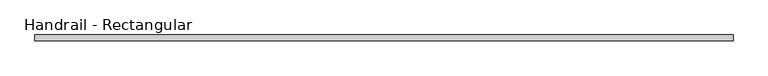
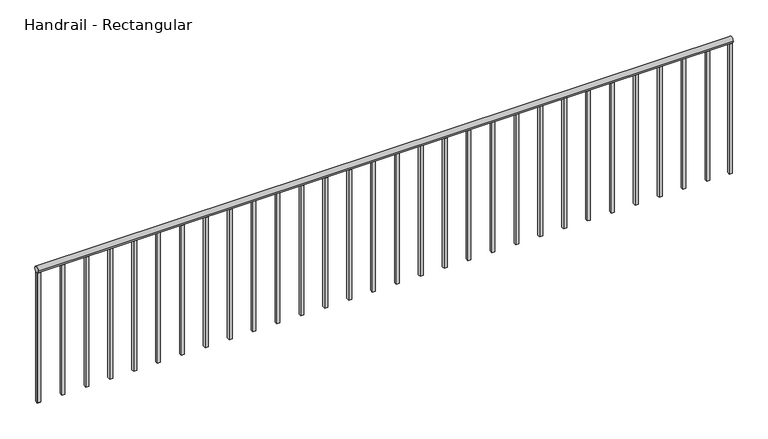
"""IFC4 building model written with IfcOpenShell, lengths in millimetres: railing geometry, Handrail - Rectangular."""

from ifc_helpers import new_model, si_unit, point, frame, frame_2d, origin, place, context, project, spatial, polyline, circle_curve, trimmed, segment, composite_curve, outline, extrude, source, transform, mapped, element, save


def handrail_rectangular_aff0f40c(model_context):
    return source(origin(), model_context, "Body", "SweptSolid", [
        extrude(outline(composite_curve([segment(trimmed(circle_curve(frame_2d((-35553.1683133, 10039.35)), 19.05), [point((-35572.2183133, 10039.35))], [point((-35534.1183133, 10039.35))], False, "CARTESIAN"), True, "CONTINUOUS"), segment(trimmed(circle_curve(frame_2d((-35553.1683133, 10039.35)), 19.05), [point((-35534.1183133, 10039.35))], [point((-35572.2183133, 10039.35))], False, "CARTESIAN"), True, "CONTINUOUS")], self_intersect=False)), frame((-30440.2839563, 0.0, 0.0), z_axis=(1.0, 0.0, 0.0), x_axis=(0.0, 1.0, 0.0)), (0.0, 0.0, 1.0), 4432.3),
        extrude(outline(polyline([(-30418.0589563, -35543.6433133), (-30418.0589563, -35562.6933133), (-30437.1089563, -35562.6933133), (-30437.1089563, -35543.6433133), (-30418.0589563, -35543.6433133)])), frame((0.0, 0.0, 9144.0), z_axis=(0.0, 0.0, 1.0), x_axis=(1.0, 0.0, 0.0)), (0.0, 0.0, 1.0), 876.3),
        extrude(outline(polyline([(-30265.6589563, -35543.6433133), (-30265.6589563, -35562.6933133), (-30284.7089563, -35562.6933133), (-30284.7089563, -35543.6433133), (-30265.6589563, -35543.6433133)])), frame((0.0, 0.0, 9144.0), z_axis=(0.0, 0.0, 1.0), x_axis=(1.0, 0.0, 0.0)), (0.0, 0.0, 1.0), 876.3),
        extrude(outline(polyline([(-30113.2589563, -35543.6433133), (-30113.2589563, -35562.6933133), (-30132.3089563, -35562.6933133), (-30132.3089563, -35543.6433133), (-30113.2589563, -35543.6433133)])), frame((0.0, 0.0, 9144.0), z_axis=(0.0, 0.0, 1.0), x_axis=(1.0, 0.0, 0.0)), (0.0, 0.0, 1.0), 876.3),
        extrude(outline(polyline([(-29960.8589563, -35543.6433133), (-29960.8589563, -35562.6933133), (-29979.9089563, -35562.6933133), (-29979.9089563, -35543.6433133), (-29960.8589563, -35543.6433133)])), frame((0.0, 0.0, 9144.0), z_axis=(0.0, 0.0, 1.0), x_axis=(1.0, 0.0, 0.0)), (0.0, 0.0, 1.0), 876.3),
        extrude(outline(polyline([(-29808.4589563, -35543.6433133), (-29808.4589563, -35562.6933133), (-29827.5089563, -35562.6933133), (-29827.5089563, -35543.6433133), (-29808.4589563, -35543.6433133)])), frame((0.0, 0.0, 9144.0), z_axis=(0.0, 0.0, 1.0), x_axis=(1.0, 0.0, 0.0)), (0.0, 0.0, 1.0), 876.3),
        extrude(outline(polyline([(-29656.0589563, -35543.6433133), (-29656.0589563, -35562.6933133), (-29675.1089563, -35562.6933133), (-29675.1089563, -35543.6433133), (-29656.0589563, -35543.6433133)])), frame((0.0, 0.0, 9144.0), z_axis=(0.0, 0.0, 1.0), x_axis=(1.0, 0.0, 0.0)), (0.0, 0.0, 1.0), 876.3),
        extrude(outline(polyline([(-29503.6589563, -35543.6433133), (-29503.6589563, -35562.6933133), (-29522.7089563, -35562.6933133), (-29522.7089563, -35543.6433133), (-29503.6589563, -35543.6433133)])), frame((0.0, 0.0, 9144.0), z_axis=(0.0, 0.0, 1.0), x_axis=(1.0, 0.0, 0.0)), (0.0, 0.0, 1.0), 876.3),
        extrude(outline(polyline([(-29351.2589563, -35543.6433133), (-29351.2589563, -35562.6933133), (-29370.3089563, -35562.6933133), (-29370.3089563, -35543.6433133), (-29351.2589563, -35543.6433133)])), frame((0.0, 0.0, 9144.0), z_axis=(0.0, 0.0, 1.0), x_axis=(1.0, 0.0, 0.0)), (0.0, 0.0, 1.0), 876.3),
        extrude(outline(polyline([(-29198.8589563, -35543.6433133), (-29198.8589563, -35562.6933133), (-29217.9089563, -35562.6933133), (-29217.9089563, -35543.6433133), (-29198.8589563, -35543.6433133)])), frame((0.0, 0.0, 9144.0), z_axis=(0.0, 0.0, 1.0), x_axis=(1.0, 0.0, 0.0)), (0.0, 0.0, 1.0), 876.3),
        extrude(outline(polyline([(-29046.4589563, -35543.6433133), (-29046.4589563, -35562.6933133), (-29065.5089563, -35562.6933133), (-29065.5089563, -35543.6433133), (-29046.4589563, -35543.6433133)])), frame((0.0, 0.0, 9144.0), z_axis=(0.0, 0.0, 1.0), x_axis=(1.0, 0.0, 0.0)), (0.0, 0.0, 1.0), 876.3),
        extrude(outline(polyline([(-28894.0589563, -35543.6433133), (-28894.0589563, -35562.6933133), (-28913.1089563, -35562.6933133), (-28913.1089563, -35543.6433133), (-28894.0589563, -35543.6433133)])), frame((0.0, 0.0, 9144.0), z_axis=(0.0, 0.0, 1.0), x_axis=(1.0, 0.0, 0.0)), (0.0, 0.0, 1.0), 876.3),
        extrude(outline(polyline([(-28741.6589563, -35543.6433133), (-28741.6589563, -35562.6933133), (-28760.7089563, -35562.6933133), (-28760.7089563, -35543.6433133), (-28741.6589563, -35543.6433133)])), frame((0.0, 0.0, 9144.0), z_axis=(0.0, 0.0, 1.0), x_axis=(1.0, 0.0, 0.0)), (0.0, 0.0, 1.0), 876.3),
        extrude(outline(polyline([(-28589.2589563, -35543.6433133), (-28589.2589563, -35562.6933133), (-28608.3089563, -35562.6933133), (-28608.3089563, -35543.6433133), (-28589.2589563, -35543.6433133)])), frame((0.0, 0.0, 9144.0), z_axis=(0.0, 0.0, 1.0), x_axis=(1.0, 0.0, 0.0)), (0.0, 0.0, 1.0), 876.3),
        extrude(outline(polyline([(-28436.8589563, -35543.6433133), (-28436.8589563, -35562.6933133), (-28455.9089563, -35562.6933133), (-28455.9089563, -35543.6433133), (-28436.8589563, -35543.6433133)])), frame((0.0, 0.0, 9144.0), z_axis=(0.0, 0.0, 1.0), x_axis=(1.0, 0.0, 0.0)), (0.0, 0.0, 1.0), 876.3),
        extrude(outline(polyline([(-28284.4589563, -35543.6433133), (-28284.4589563, -35562.6933133), (-28303.5089563, -35562.6933133), (-28303.5089563, -35543.6433133), (-28284.4589563, -35543.6433133)])), frame((0.0, 0.0, 9144.0), z_axis=(0.0, 0.0, 1.0), x_axis=(1.0, 0.0, 0.0)), (0.0, 0.0, 1.0), 876.3),
        extrude(outline(polyline([(-28132.0589563, -35543.6433133), (-28132.0589563, -35562.6933133), (-28151.1089563, -35562.6933133), (-28151.1089563, -35543.6433133), (-28132.0589563, -35543.6433133)])), frame((0.0, 0.0, 9144.0), z_axis=(0.0, 0.0, 1.0), x_axis=(1.0, 0.0, 0.0)), (0.0, 0.0, 1.0), 876.3),
        extrude(outline(polyline([(-27979.6589563, -35543.6433133), (-27979.6589563, -35562.6933133), (-27998.7089563, -35562.6933133), (-27998.7089563, -35543.6433133), (-27979.6589563, -35543.6433133)])), frame((0.0, 0.0, 9144.0), z_axis=(0.0, 0.0, 1.0), x_axis=(1.0, 0.0, 0.0)), (0.0, 0.0, 1.0), 876.3),
        extrude(outline(polyline([(-27827.2589563, -35543.6433133), (-27827.2589563, -35562.6933133), (-27846.3089563, -35562.6933133), (-27846.3089563, -35543.6433133), (-27827.2589563, -35543.6433133)])), frame((0.0, 0.0, 9144.0), z_axis=(0.0, 0.0, 1.0), x_axis=(1.0, 0.0, 0.0)), (0.0, 0.0, 1.0), 876.3),
        extrude(outline(polyline([(-27674.8589563, -35543.6433133), (-27674.8589563, -35562.6933133), (-27693.9089563, -35562.6933133), (-27693.9089563, -35543.6433133), (-27674.8589563, -35543.6433133)])), frame((0.0, 0.0, 9144.0), z_axis=(0.0, 0.0, 1.0), x_axis=(1.0, 0.0, 0.0)), (0.0, 0.0, 1.0), 876.3),
        extrude(outline(polyline([(-27522.4589563, -35543.6433133), (-27522.4589563, -35562.6933133), (-27541.5089563, -35562.6933133), (-27541.5089563, -35543.6433133), (-27522.4589563, -35543.6433133)])), frame((0.0, 0.0, 9144.0), z_axis=(0.0, 0.0, 1.0), x_axis=(1.0, 0.0, 0.0)), (0.0, 0.0, 1.0), 876.3),
        extrude(outline(polyline([(-27370.0589563, -35543.6433133), (-27370.0589563, -35562.6933133), (-27389.1089563, -35562.6933133), (-27389.1089563, -35543.6433133), (-27370.0589563, -35543.6433133)])), frame((0.0, 0.0, 9144.0), z_axis=(0.0, 0.0, 1.0), x_axis=(1.0, 0.0, 0.0)), (0.0, 0.0, 1.0), 876.3),
        extrude(outline(polyline([(-27217.6589563, -35543.6433133), (-27217.6589563, -35562.6933133), (-27236.7089563, -35562.6933133), (-27236.7089563, -35543.6433133), (-27217.6589563, -35543.6433133)])), frame((0.0, 0.0, 9144.0), z_axis=(0.0, 0.0, 1.0), x_axis=(1.0, 0.0, 0.0)), (0.0, 0.0, 1.0), 876.3),
        extrude(outline(polyline([(-27065.2589563, -35543.6433133), (-27065.2589563, -35562.6933133), (-27084.3089563, -35562.6933133), (-27084.3089563, -35543.6433133), (-27065.2589563, -35543.6433133)])), frame((0.0, 0.0, 9144.0), z_axis=(0.0, 0.0, 1.0), x_axis=(1.0, 0.0, 0.0)), (0.0, 0.0, 1.0), 876.3),
        extrude(outline(polyline([(-26912.8589563, -35543.6433133), (-26912.8589563, -35562.6933133), (-26931.9089563, -35562.6933133), (-26931.9089563, -35543.6433133), (-26912.8589563, -35543.6433133)])), frame((0.0, 0.0, 9144.0), z_axis=(0.0, 0.0, 1.0), x_axis=(1.0, 0.0, 0.0)), (0.0, 0.0, 1.0), 876.3),
        extrude(outline(polyline([(-26760.4589563, -35543.6433133), (-26760.4589563, -35562.6933133), (-26779.5089563, -35562.6933133), (-26779.5089563, -35543.6433133), (-26760.4589563, -35543.6433133)])), frame((0.0, 0.0, 9144.0), z_axis=(0.0, 0.0, 1.0), x_axis=(1.0, 0.0, 0.0)), (0.0, 0.0, 1.0), 876.3),
        extrude(outline(polyline([(-26608.0589563, -35543.6433133), (-26608.0589563, -35562.6933133), (-26627.1089563, -35562.6933133), (-26627.1089563, -35543.6433133), (-26608.0589563, -35543.6433133)])), frame((0.0, 0.0, 9144.0), z_axis=(0.0, 0.0, 1.0), x_axis=(1.0, 0.0, 0.0)), (0.0, 0.0, 1.0), 876.3),
        extrude(outline(polyline([(-26455.6589563, -35543.6433133), (-26455.6589563, -35562.6933133), (-26474.7089563, -35562.6933133), (-26474.7089563, -35543.6433133), (-26455.6589563, -35543.6433133)])), frame((0.0, 0.0, 9144.0), z_axis=(0.0, 0.0, 1.0), x_axis=(1.0, 0.0, 0.0)), (0.0, 0.0, 1.0), 876.3),
        extrude(outline(polyline([(-26303.2589563, -35543.6433133), (-26303.2589563, -35562.6933133), (-26322.3089563, -35562.6933133), (-26322.3089563, -35543.6433133), (-26303.2589563, -35543.6433133)])), frame((0.0, 0.0, 9144.0), z_axis=(0.0, 0.0, 1.0), x_axis=(1.0, 0.0, 0.0)), (0.0, 0.0, 1.0), 876.3),
        extrude(outline(polyline([(-26150.8589563, -35543.6433133), (-26150.8589563, -35562.6933133), (-26169.9089563, -35562.6933133), (-26169.9089563, -35543.6433133), (-26150.8589563, -35543.6433133)])), frame((0.0, 0.0, 9144.0), z_axis=(0.0, 0.0, 1.0), x_axis=(1.0, 0.0, 0.0)), (0.0, 0.0, 1.0), 876.3),
        extrude(outline(polyline([(-30421.2339563, -35543.6433133), (-30421.2339563, -35562.6933133), (-30440.2839563, -35562.6933133), (-30440.2839563, -35543.6433133), (-30421.2339563, -35543.6433133)])), frame((0.0, 0.0, 9144.0), z_axis=(0.0, 0.0, 1.0), x_axis=(1.0, 0.0, 0.0)), (0.0, 0.0, 1.0), 876.3),
        extrude(outline(polyline([(-26007.9839563, -35543.6433133), (-26007.9839563, -35562.6933133), (-26027.0339563, -35562.6933133), (-26027.0339563, -35543.6433133), (-26007.9839563, -35543.6433133)])), frame((0.0, 0.0, 9144.0), z_axis=(0.0, 0.0, 1.0), x_axis=(1.0, 0.0, 0.0)), (0.0, 0.0, 1.0), 876.3),
    ])


if __name__ == "__main__":
    model = new_model("IFC4")
    model_context = context("Model", 3, world=origin())
    ifc_project = project(units=[si_unit("LENGTHUNIT", "METRE", prefix="MILLI")], contexts=[model_context])
    site = spatial("IfcSite", under=ifc_project)
    building = spatial("IfcBuilding", under=site)
    placement = place(None, origin())
    handrail_rectangular_shape = handrail_rectangular_aff0f40c(model_context)
    element("IfcRailing", 1, ObjectType="Handrail - Rectangular", at=placement, inside=building, context=model_context, shape_type="MappedRepresentation", body=[
        mapped(handrail_rectangular_shape, transform((0.0, 0.0, 0.0), x_axis=(1.0, 0.0, 0.0), y_axis=(0.0, 1.0, 0.0), z_axis=(0.0, 0.0, 1.0))),
    ])
    save(model, "model.ifc")
